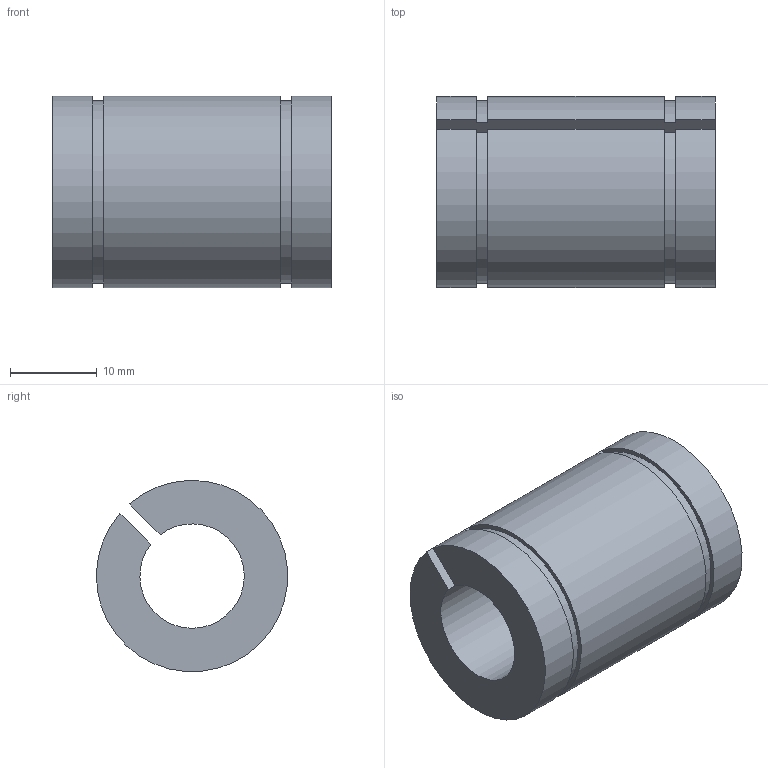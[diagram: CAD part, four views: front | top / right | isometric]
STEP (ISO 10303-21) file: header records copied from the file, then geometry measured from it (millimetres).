
FILE_DESCRIPTION( ( 'STEP AP203' ), '1' );
FILE_NAME( 'p:/temp/worker_87/temp/exporttempdir_3928_185_Mxz5J/format_0/LME12UU-AJ.stp', '2020-04-29T03:21:01', ( 'License CC BY-ND 4.0' ), ( 'CADENAS' ), ' ', 'PARTsolutions', ' ' );
FILE_SCHEMA( ( 'CONFIG_CONTROL_DESIGN' ) );
Length unit declared in the file: millimetre
Products named in the file (1): _LME12UU-AJ
Bounding box: 32 x 21.97 x 21.97 mm (x, y, z)
Volume: 8218.9 mm3; surface area: 4283.6 mm2
Topology: 1 solids, 1 shells, 14 faces, 36 edges, 24 vertices
Faces by surface type: plane 8, cylinder 6
Entity records: 476 total; most frequent: DIRECTION 78, CARTESIAN_POINT 75, ORIENTED_EDGE 72, EDGE_CURVE 36, AXIS2_PLACEMENT_3D 27, VERTEX_POINT 24, LINE 24, VECTOR 24
